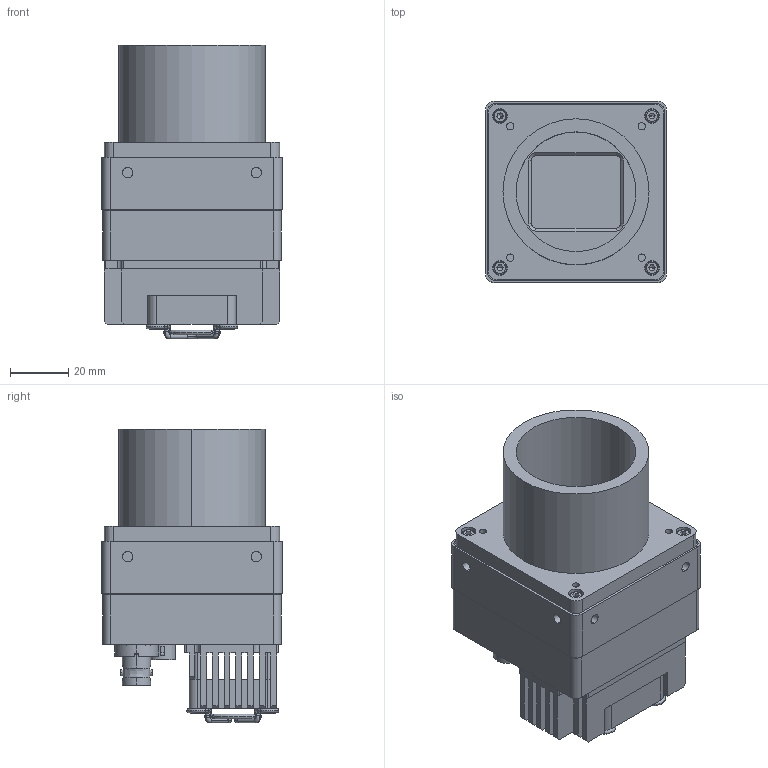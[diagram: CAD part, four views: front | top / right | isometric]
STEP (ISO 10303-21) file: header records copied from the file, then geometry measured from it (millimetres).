
FILE_DESCRIPTION (( 'STEP AP203' ), '1' );
FILE_NAME ('TS31MSCXP-A01-V1.1.0.STEP', '2022-12-06T02:10:43', ( '微软用户' ), ( '微软中国' ), 'SwSTEP 2.0', 'SolidWorks 2017', '' );
FILE_SCHEMA (( 'CONFIG_CONTROL_DESIGN' ));
Length unit declared in the file: millimetre
Products named in the file (1): TS31MSCXP-A01-V1.1.0
Bounding box: 62 x 62 x 100.51 mm (x, y, z)
Volume: 107216.8 mm3; surface area: 81415.8 mm2
Topology: 58 solids, 58 shells, 4300 faces, 11788 edges, 7602 vertices
Faces by surface type: plane 2458, cylinder 1150, bspline 442, cone 167, torus 76, sphere 7
Entity records: 155250 total; most frequent: CARTESIAN_POINT 50089, ORIENTED_EDGE 23482, DIRECTION 19383, EDGE_CURVE 11741, VERTEX_POINT 7594, VECTOR 7255, LINE 7255, AXIS2_PLACEMENT_3D 6064
